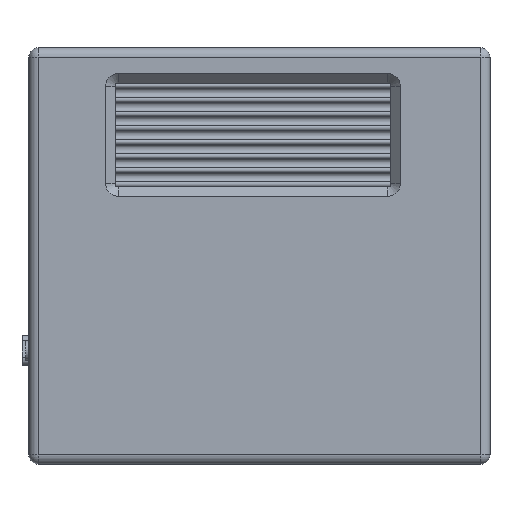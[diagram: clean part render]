
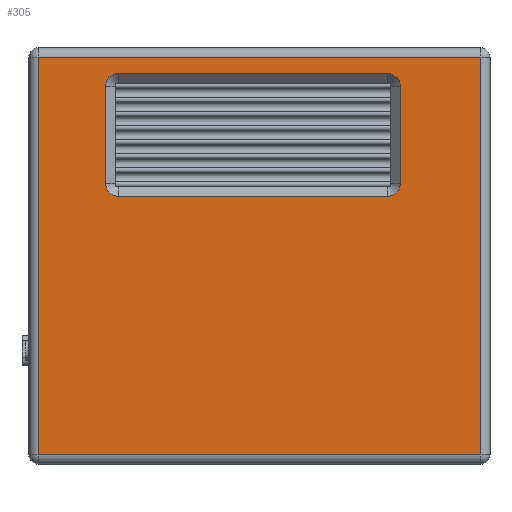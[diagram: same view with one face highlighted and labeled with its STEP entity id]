
A CAD part, front view. The second image highlights one B-rep face of the part: STEP entity #305.
In plain terms, the highlighted planar face has unit normal (0, -1, 0).
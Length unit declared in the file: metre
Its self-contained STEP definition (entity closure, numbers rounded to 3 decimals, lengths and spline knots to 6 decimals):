
#305 = ADVANCED_FACE( '', ( #970, #971 ), #972, .F. );
#970 = FACE_BOUND( '', #1854, .T. );
#971 = FACE_OUTER_BOUND( '', #1855, .T. );
#972 = PLANE( '', #1856 );
#1854 = EDGE_LOOP( '', ( #3627, #3628, #3629, #3630, #3631, #3632, #3633, #3634 ) );
#1855 = EDGE_LOOP( '', ( #3635, #3636, #3637, #3638 ) );
#1856 = AXIS2_PLACEMENT_3D( '', #3639, #3640, #3641 );
#3627 = ORIENTED_EDGE( '', *, *, #5006, .T. );
#3628 = ORIENTED_EDGE( '', *, *, #5152, .T. );
#3629 = ORIENTED_EDGE( '', *, *, #5001, .T. );
#3630 = ORIENTED_EDGE( '', *, *, #5454, .T. );
#3631 = ORIENTED_EDGE( '', *, *, #5023, .T. );
#3632 = ORIENTED_EDGE( '', *, *, #5028, .T. );
#3633 = ORIENTED_EDGE( '', *, *, #5025, .T. );
#3634 = ORIENTED_EDGE( '', *, *, #5010, .T. );
#3635 = ORIENTED_EDGE( '', *, *, #5209, .T. );
#3636 = ORIENTED_EDGE( '', *, *, #4953, .T. );
#3637 = ORIENTED_EDGE( '', *, *, #5455, .T. );
#3638 = ORIENTED_EDGE( '', *, *, #5456, .T. );
#3639 = CARTESIAN_POINT( '', ( 0.05984, -0.063382, -0.01227 ) );
#3640 = DIRECTION( '', ( 0., 1., 0. ) );
#3641 = DIRECTION( '', ( 0., 0., 1. ) );
#4953 = EDGE_CURVE( '', #5747, #5744, #5748, .F. );
#5001 = EDGE_CURVE( '', #5840, #5838, #5841, .T. );
#5006 = EDGE_CURVE( '', #5850, #5848, #5851, .T. );
#5010 = EDGE_CURVE( '', #5853, #5850, #5857, .T. );
#5023 = EDGE_CURVE( '', #5879, #5877, #5880, .T. );
#5025 = EDGE_CURVE( '', #5882, #5853, #5883, .T. );
#5028 = EDGE_CURVE( '', #5877, #5882, #5887, .T. );
#5152 = EDGE_CURVE( '', #5848, #5840, #6114, .T. );
#5209 = EDGE_CURVE( '', #6217, #5747, #6218, .F. );
#5454 = EDGE_CURVE( '', #5838, #5879, #6615, .T. );
#5455 = EDGE_CURVE( '', #5744, #6616, #6617, .F. );
#5456 = EDGE_CURVE( '', #6616, #6217, #6618, .T. );
#5744 = VERTEX_POINT( '', #7045 );
#5747 = VERTEX_POINT( '', #7048 );
#5748 = LINE( '', #7049, #7050 );
#5838 = VERTEX_POINT( '', #7162 );
#5840 = VERTEX_POINT( '', #7165 );
#5841 = CIRCLE( '', #7166, 0.004 );
#5848 = VERTEX_POINT( '', #7184 );
#5850 = VERTEX_POINT( '', #7187 );
#5851 = CIRCLE( '', #7188, 0.004 );
#5853 = VERTEX_POINT( '', #7191 );
#5857 = LINE( '', #7197, #7198 );
#5877 = VERTEX_POINT( '', #7240 );
#5879 = VERTEX_POINT( '', #7243 );
#5880 = CIRCLE( '', #7244, 0.004 );
#5882 = VERTEX_POINT( '', #7247 );
#5883 = CIRCLE( '', #7248, 0.004 );
#5887 = LINE( '', #7258, #7259 );
#6114 = LINE( '', #7550, #7551 );
#6217 = VERTEX_POINT( '', #7917 );
#6218 = LINE( '', #7918, #7919 );
#6615 = LINE( '', #8511, #8512 );
#6616 = VERTEX_POINT( '', #8513 );
#6617 = LINE( '', #8514, #8515 );
#6618 = LINE( '', #8516, #8517 );
#7045 = CARTESIAN_POINT( '', ( 0.06584, -0.063382, -0.07827 ) );
#7048 = CARTESIAN_POINT( '', ( -0.07216, -0.063382, -0.07827 ) );
#7049 = CARTESIAN_POINT( '', ( 0.06584, -0.063382, -0.07827 ) );
#7050 = VECTOR( '', #9150, 1. );
#7162 = CARTESIAN_POINT( '', ( -0.04716, -0.063382, 0.04073 ) );
#7165 = CARTESIAN_POINT( '', ( -0.05116, -0.063382, 0.03673 ) );
#7166 = AXIS2_PLACEMENT_3D( '', #9260, #9261, #9262 );
#7184 = CARTESIAN_POINT( '', ( -0.05116, -0.063382, 0.00633 ) );
#7187 = CARTESIAN_POINT( '', ( -0.04716, -0.063382, 0.00233 ) );
#7188 = AXIS2_PLACEMENT_3D( '', #9265, #9266, #9267 );
#7191 = CARTESIAN_POINT( '', ( 0.03684, -0.063382, 0.00233 ) );
#7197 = CARTESIAN_POINT( '', ( 0.05984, -0.063382, 0.00233 ) );
#7198 = VECTOR( '', #9271, 1. );
#7240 = CARTESIAN_POINT( '', ( 0.04084, -0.063382, 0.03673 ) );
#7243 = CARTESIAN_POINT( '', ( 0.03684, -0.063382, 0.04073 ) );
#7244 = AXIS2_PLACEMENT_3D( '', #9283, #9284, #9285 );
#7247 = CARTESIAN_POINT( '', ( 0.04084, -0.063382, 0.00633 ) );
#7248 = AXIS2_PLACEMENT_3D( '', #9287, #9288, #9289 );
#7258 = CARTESIAN_POINT( '', ( 0.04084, -0.063382, -0.01227 ) );
#7259 = VECTOR( '', #9291, 1. );
#7550 = CARTESIAN_POINT( '', ( -0.05116, -0.063382, -0.01227 ) );
#7551 = VECTOR( '', #9533, 1. );
#7917 = CARTESIAN_POINT( '', ( -0.07216, -0.063382, 0.04573 ) );
#7918 = CARTESIAN_POINT( '', ( -0.07216, -0.063382, -0.01577 ) );
#7919 = VECTOR( '', #9623, 1. );
#8511 = CARTESIAN_POINT( '', ( 0.05984, -0.063382, 0.04073 ) );
#8512 = VECTOR( '', #9995, 1. );
#8513 = CARTESIAN_POINT( '', ( 0.06584, -0.063382, 0.04573 ) );
#8514 = CARTESIAN_POINT( '', ( 0.06584, -0.063382, 0.04873 ) );
#8515 = VECTOR( '', #9996, 1. );
#8516 = CARTESIAN_POINT( '', ( -0.07516, -0.063382, 0.04573 ) );
#8517 = VECTOR( '', #9997, 1. );
#9150 = DIRECTION( '', ( -1., 0., 0. ) );
#9260 = CARTESIAN_POINT( '', ( -0.04716, -0.063382, 0.03673 ) );
#9261 = DIRECTION( '', ( 0., 1., 0. ) );
#9262 = DIRECTION( '', ( 0., 0., 1. ) );
#9265 = CARTESIAN_POINT( '', ( -0.04716, -0.063382, 0.00633 ) );
#9266 = DIRECTION( '', ( 0., 1., 0. ) );
#9267 = DIRECTION( '', ( 0., 0., 1. ) );
#9271 = DIRECTION( '', ( -1., 0., 0. ) );
#9283 = CARTESIAN_POINT( '', ( 0.03684, -0.063382, 0.03673 ) );
#9284 = DIRECTION( '', ( 0., 1., 0. ) );
#9285 = DIRECTION( '', ( 0., 0., 1. ) );
#9287 = CARTESIAN_POINT( '', ( 0.03684, -0.063382, 0.00633 ) );
#9288 = DIRECTION( '', ( 0., 1., 0. ) );
#9289 = DIRECTION( '', ( 0., 0., 1. ) );
#9291 = DIRECTION( '', ( 0., 0., -1. ) );
#9533 = DIRECTION( '', ( 0., 0., 1. ) );
#9623 = DIRECTION( '', ( 0., 0., 1. ) );
#9995 = DIRECTION( '', ( 1., 0., 0. ) );
#9996 = DIRECTION( '', ( 0., 0., -1. ) );
#9997 = DIRECTION( '', ( -1., 0., 0. ) );
